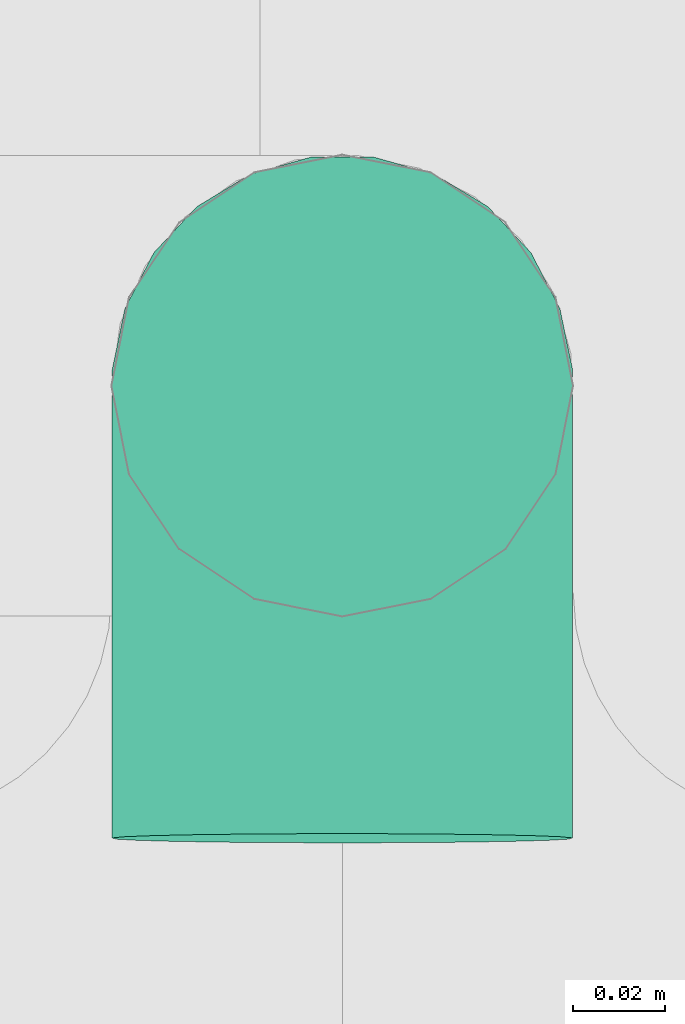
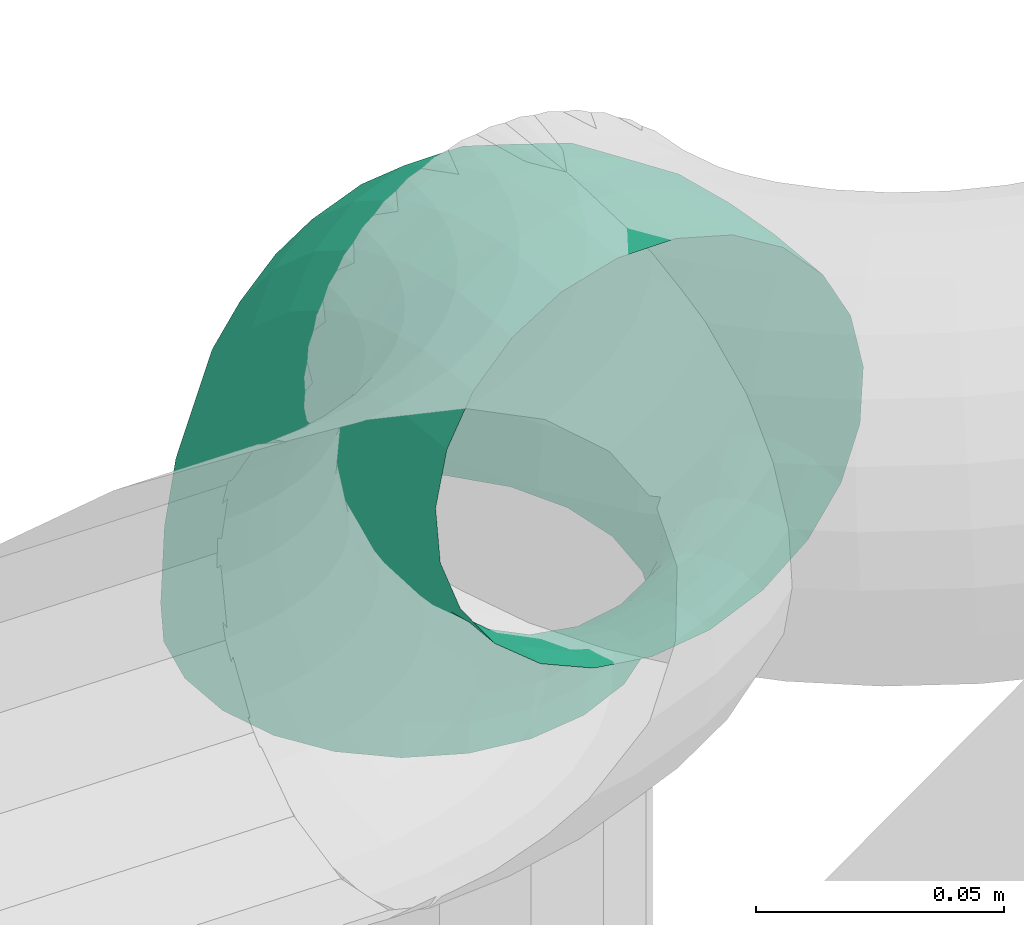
# One storey, part 80 of 108: 1 flow fitting.
"""IFC2X3 building model written with IfcOpenShell, lengths in metres."""

from ifc_helpers import new_model, entity, si_unit, converted_unit, derived_unit, money_unit, direction, frame, origin_with_axes, place, context, subcontext, project, spatial, open_shell, surface_model, material, type_object, element, save


model = new_model("IFC2X3")

# Units and contexts
model_context = context("Model", 3, precision=1e-05, world=origin_with_axes(), true_north=direction((0.0, 1.0)))
body_context = subcontext(model_context, "Body", "Model", "MODEL_VIEW", scale=1.0)
ifc_project = project(units=[si_unit("LENGTHUNIT", "METRE"), si_unit("AREAUNIT", "SQUARE_METRE"), si_unit("VOLUMEUNIT", "CUBIC_METRE"), si_unit("ABSORBEDDOSEUNIT", "GRAY"), si_unit("AMOUNTOFSUBSTANCEUNIT", "MOLE"), si_unit("DOSEEQUIVALENTUNIT", "SIEVERT"), si_unit("ELECTRICCAPACITANCEUNIT", "FARAD"), si_unit("ELECTRICCHARGEUNIT", "COULOMB"), si_unit("ELECTRICCONDUCTANCEUNIT", "SIEMENS"), si_unit("ELECTRICCURRENTUNIT", "AMPERE"), si_unit("ELECTRICRESISTANCEUNIT", "OHM"), si_unit("ELECTRICVOLTAGEUNIT", "VOLT"), si_unit("ENERGYUNIT", "JOULE"), si_unit("FORCEUNIT", "NEWTON"), si_unit("FREQUENCYUNIT", "HERTZ"), si_unit("ILLUMINANCEUNIT", "LUX"), si_unit("INDUCTANCEUNIT", "HENRY"), si_unit("LUMINOUSFLUXUNIT", "LUMEN"), si_unit("LUMINOUSINTENSITYUNIT", "CANDELA"), si_unit("MAGNETICFLUXDENSITYUNIT", "TESLA"), si_unit("MAGNETICFLUXUNIT", "WEBER"), si_unit("MASSUNIT", "GRAM"), converted_unit("PLANEANGLEUNIT", "degree", entity("IfcReal", 0.0174532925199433), si_unit("PLANEANGLEUNIT", "RADIAN"), dimensions=[0, 0, 0, 0, 0, 0, 0]), si_unit("POWERUNIT", "WATT"), si_unit("PRESSUREUNIT", "PASCAL"), si_unit("RADIOACTIVITYUNIT", "BECQUEREL"), si_unit("SOLIDANGLEUNIT", "STERADIAN"), si_unit("THERMODYNAMICTEMPERATUREUNIT", "KELVIN"), si_unit("TIMEUNIT", "SECOND"), derived_unit("ACCELERATIONUNIT", [(si_unit("LENGTHUNIT", "METRE"), 1), (si_unit("TIMEUNIT", "SECOND"), -2)]), derived_unit("ANGULARVELOCITYUNIT", [(converted_unit("PLANEANGLEUNIT", "degree", entity("IfcReal", 0.0174532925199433), si_unit("PLANEANGLEUNIT", "RADIAN"), dimensions=[0, 0, 0, 0, 0, 0, 0]), 1), (si_unit("TIMEUNIT", "SECOND"), -1)]), derived_unit("CURVATUREUNIT", [(converted_unit("PLANEANGLEUNIT", "degree", entity("IfcReal", 0.0174532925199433), si_unit("PLANEANGLEUNIT", "RADIAN"), dimensions=[0, 0, 0, 0, 0, 0, 0]), 1), (si_unit("LENGTHUNIT", "METRE"), -1)]), derived_unit("DYNAMICVISCOSITYUNIT", [(si_unit("PRESSUREUNIT", "PASCAL"), 1), (si_unit("TIMEUNIT", "SECOND"), 1)]), derived_unit("HEATFLUXDENSITYUNIT", [(si_unit("POWERUNIT", "WATT"), 1), (si_unit("LENGTHUNIT", "METRE"), -2)]), derived_unit("HEATINGVALUEUNIT", [(si_unit("ENERGYUNIT", "JOULE"), 1), (si_unit("MASSUNIT", "GRAM"), -1)]), derived_unit("INTEGERCOUNTRATEUNIT", [(si_unit("TIMEUNIT", "SECOND"), -1)]), derived_unit("IONCONCENTRATIONUNIT", [(si_unit("MASSUNIT", "GRAM"), 1), (si_unit("VOLUMEUNIT", "CUBIC_METRE"), -1)]), derived_unit("ISOTHERMALMOISTURECAPACITYUNIT", [(si_unit("VOLUMEUNIT", "CUBIC_METRE"), 1), (si_unit("MASSUNIT", "GRAM"), -1)]), derived_unit("KINEMATICVISCOSITYUNIT", [(si_unit("AREAUNIT", "SQUARE_METRE"), 1), (si_unit("TIMEUNIT", "SECOND"), -1)]), derived_unit("LINEARFORCEUNIT", [(si_unit("FORCEUNIT", "NEWTON"), 1), (si_unit("LENGTHUNIT", "METRE"), -1)]), derived_unit("LINEARMOMENTUNIT", [(si_unit("FORCEUNIT", "NEWTON"), 1), (si_unit("LENGTHUNIT", "METRE"), -1)]), derived_unit("LINEARSTIFFNESSUNIT", [(si_unit("FORCEUNIT", "NEWTON"), 1), (si_unit("LENGTHUNIT", "METRE"), -1)]), derived_unit("LINEARVELOCITYUNIT", [(si_unit("LENGTHUNIT", "METRE"), 1), (si_unit("TIMEUNIT", "SECOND"), -1)]), derived_unit("LUMINOUSINTENSITYDISTRIBUTIONUNIT", [(si_unit("LUMINOUSINTENSITYUNIT", "CANDELA"), 1), (si_unit("LUMINOUSFLUXUNIT", "LUMEN"), -1)]), derived_unit("MASSDENSITYUNIT", [(si_unit("MASSUNIT", "GRAM"), 1), (si_unit("VOLUMEUNIT", "CUBIC_METRE"), -1)]), derived_unit("MASSFLOWRATEUNIT", [(si_unit("MASSUNIT", "GRAM"), 1), (si_unit("TIMEUNIT", "SECOND"), -1)]), derived_unit("MASSPERLENGTHUNIT", [(si_unit("MASSUNIT", "GRAM"), 1), (si_unit("LENGTHUNIT", "METRE"), -1)]), derived_unit("MODULUSOFELASTICITYUNIT", [(si_unit("FORCEUNIT", "NEWTON"), 1), (si_unit("AREAUNIT", "SQUARE_METRE"), -1)]), derived_unit("MODULUSOFLINEARSUBGRADEREACTIONUNIT", [(si_unit("FORCEUNIT", "NEWTON"), 1), (si_unit("LENGTHUNIT", "METRE"), -2)]), derived_unit("MODULUSOFROTATIONALSUBGRADEREACTIONUNIT", [(si_unit("FORCEUNIT", "NEWTON"), 1), (si_unit("LENGTHUNIT", "METRE"), 1)]), derived_unit("MODULUSOFSUBGRADEREACTIONUNIT", [(si_unit("FORCEUNIT", "NEWTON"), 1), (si_unit("VOLUMEUNIT", "CUBIC_METRE"), -1)]), derived_unit("MOISTUREDIFFUSIVITYUNIT", [(si_unit("VOLUMEUNIT", "CUBIC_METRE"), 1), (si_unit("TIMEUNIT", "SECOND"), -1)]), derived_unit("MOLECULARWEIGHTUNIT", [(si_unit("MASSUNIT", "GRAM"), 1), (si_unit("AMOUNTOFSUBSTANCEUNIT", "MOLE"), -1)]), derived_unit("PLANARFORCEUNIT", [(si_unit("FORCEUNIT", "NEWTON"), 1), (si_unit("LENGTHUNIT", "METRE"), -2)]), derived_unit("ROTATIONALFREQUENCYUNIT", [(si_unit("TIMEUNIT", "SECOND"), -1)]), derived_unit("ROTATIONALMASSUNIT", [(si_unit("MASSUNIT", "GRAM"), 1), (si_unit("LENGTHUNIT", "METRE"), 2)]), derived_unit("ROTATIONALSTIFFNESSUNIT", [(si_unit("FORCEUNIT", "NEWTON"), 1), (si_unit("LENGTHUNIT", "METRE"), 1), (converted_unit("PLANEANGLEUNIT", "degree", entity("IfcReal", 0.0174532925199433), si_unit("PLANEANGLEUNIT", "RADIAN"), dimensions=[0, 0, 0, 0, 0, 0, 0]), -1)]), derived_unit("SECTIONAREAINTEGRALUNIT", [(si_unit("LENGTHUNIT", "METRE"), 5)]), derived_unit("SECTIONMODULUSUNIT", [(si_unit("LENGTHUNIT", "METRE"), 3)]), derived_unit("SHEARMODULUSUNIT", [(si_unit("FORCEUNIT", "NEWTON"), 1), (si_unit("AREAUNIT", "SQUARE_METRE"), -1)]), derived_unit("SOUNDPOWERUNIT", [(si_unit("ENERGYUNIT", "JOULE"), 1), (si_unit("TIMEUNIT", "SECOND"), -1)]), derived_unit("SPECIFICHEATCAPACITYUNIT", [(si_unit("FORCEUNIT", "NEWTON"), 1), (si_unit("MASSUNIT", "GRAM"), -1), (si_unit("THERMODYNAMICTEMPERATUREUNIT", "KELVIN"), -1)]), derived_unit("TEMPERATUREGRADIENTUNIT", [(si_unit("THERMODYNAMICTEMPERATUREUNIT", "KELVIN"), 1), (si_unit("LENGTHUNIT", "METRE"), -1)]), derived_unit("THERMALADMITTANCEUNIT", [(si_unit("POWERUNIT", "WATT"), 1), (si_unit("AREAUNIT", "SQUARE_METRE"), -1), (si_unit("THERMODYNAMICTEMPERATUREUNIT", "KELVIN"), -1)]), derived_unit("THERMALCONDUCTANCEUNIT", [(si_unit("POWERUNIT", "WATT"), 1), (si_unit("LENGTHUNIT", "METRE"), -1), (si_unit("THERMODYNAMICTEMPERATUREUNIT", "KELVIN"), -1)]), derived_unit("THERMALEXPANSIONCOEFFICIENTUNIT", [(si_unit("THERMODYNAMICTEMPERATUREUNIT", "KELVIN"), -1)]), derived_unit("THERMALRESISTANCEUNIT", [(si_unit("AREAUNIT", "SQUARE_METRE"), 1), (si_unit("POWERUNIT", "WATT"), -1)]), derived_unit("THERMALTRANSMITTANCEUNIT", [(si_unit("POWERUNIT", "WATT"), 1), (si_unit("AREAUNIT", "SQUARE_METRE"), -1), (si_unit("THERMODYNAMICTEMPERATUREUNIT", "KELVIN"), -1)]), derived_unit("TORQUEUNIT", [(si_unit("FORCEUNIT", "NEWTON"), 1), (si_unit("LENGTHUNIT", "METRE"), 1)]), derived_unit("VAPORPERMEABILITYUNIT", [(si_unit("MASSUNIT", "GRAM"), 1), (si_unit("TIMEUNIT", "SECOND"), -1)]), derived_unit("VOLUMETRICFLOWRATEUNIT", [(si_unit("VOLUMEUNIT", "CUBIC_METRE"), 1), (si_unit("TIMEUNIT", "SECOND"), -1)]), derived_unit("WARPINGCONSTANTUNIT", [(si_unit("LENGTHUNIT", "METRE"), 6)]), derived_unit("WARPINGMOMENTUNIT", [(si_unit("FORCEUNIT", "NEWTON"), 1), (si_unit("LENGTHUNIT", "METRE"), 2)]), money_unit("GBP")], contexts=[model_context])

# Site, building, storey
site_placement = place(None, origin_with_axes())
site = spatial("IfcSite", under=ifc_project, at=site_placement, Name="Site", CompositionType="ELEMENT")
building_placement = place(site_placement, origin_with_axes())
building = spatial("IfcBuilding", under=site, at=building_placement, Name="Building01", CompositionType="ELEMENT")
storey_placement = place(building_placement, origin_with_axes())
storey = spatial("IfcBuildingStorey", under=building, at=storey_placement, Name="GF", CompositionType="ELEMENT", Elevation=0.0)

# Flow fitting
ifc_material = material(Name="M_BSUK_ColdWater")
pipe_fitting_type = type_object("IfcPipeFittingType", Name="M-BmpElbow-DefaultElbow", PredefinedType="BEND")
flow_fitting_placement = place(storey_placement, frame((0.408496, 14.95, 15.378989), z_axis=(0.0, 1.0, 0.0), x_axis=(0.0, 0.0, -1.0)))
element("IfcFlowFitting", 1, at=flow_fitting_placement, inside=storey, type_object=pipe_fitting_type, material=ifc_material, Name="M-BmpElbow-DefaultElbow", ObjectType="M-BmpElbow-DefaultElbow", context=body_context, shape_type="SurfaceModel", body=[
    surface_model("IfcShellBasedSurfaceModel", [(-0.008009, -0.01349, -0.048768), (0.0, -0.01349, -0.048146), (0.0, 0.0, -0.05), (-0.007723, 0.0, -0.0506), (-0.015826, -0.01349, -0.05062), (-0.015261, 0.0, -0.052386), (-0.023264, -0.01349, -0.053657), (-0.022432, 0.0, -0.055314), (-0.030143, -0.01349, -0.057807), (-0.029065, 0.0, -0.059315), (-0.036298, -0.01349, -0.062969), (-0.035, 0.0, -0.064293), (-0.041582, -0.01349, -0.06902), (-0.040095, 0.0, -0.070127), (-0.045868, -0.01349, -0.075814), (-0.044228, 0.0, -0.076679), (-0.049054, -0.01349, -0.083189), (-0.0473, 0.0, -0.08379), (-0.051061, -0.01349, -0.090968), (-0.049236, 0.0, -0.091291), (-0.051844, -0.01349, -0.098963), (-0.04999, 0.0, -0.099), (-0.008847, -0.025979, -0.043408), (0.0, -0.025979, -0.042721), (-0.017482, -0.025979, -0.045454), (-0.025697, -0.025979, -0.048809), (-0.033296, -0.025979, -0.053392), (-0.040095, -0.025979, -0.059095), (-0.045932, -0.025979, -0.065779), (-0.050667, -0.025979, -0.073284), (-0.054185, -0.025979, -0.081431), (-0.056403, -0.025979, -0.090023), (-0.057268, -0.025979, -0.098855), (-0.010175, -0.036542, -0.034918), (0.0, -0.036542, -0.034128), (-0.020105, -0.036542, -0.037271), (-0.029553, -0.036542, -0.041129), (-0.038291, -0.036542, -0.0464), (-0.046111, -0.036542, -0.052958), (-0.052823, -0.036542, -0.060645), (-0.058268, -0.036542, -0.069276), (-0.062315, -0.036542, -0.078645), (-0.064865, -0.036542, -0.088526), (-0.065859, -0.036542, -0.098683), (-0.011893, -0.044394, -0.023927), (0.0, -0.044394, -0.023003), (-0.0235, -0.044394, -0.026677), (-0.034544, -0.044394, -0.031187), (-0.044758, -0.044394, -0.037348), (-0.053898, -0.044394, -0.045013), (-0.061744, -0.044394, -0.053998), (-0.068109, -0.044394, -0.064087), (-0.072838, -0.044394, -0.075038), (-0.07582, -0.044394, -0.086588), (-0.076981, -0.044394, -0.09846), (-0.013875, -0.048954, -0.011251), (0.0, -0.048954, -0.010173), (-0.027416, -0.048954, -0.014459), (-0.0403, -0.048954, -0.01972), (-0.052216, -0.048954, -0.026908), (-0.062879, -0.048954, -0.035851), (-0.072033, -0.048954, -0.046333), (-0.079458, -0.048954, -0.058103), (-0.084976, -0.048954, -0.070879), (-0.088454, -0.048954, -0.084353), (-0.089809, -0.048954, -0.098204), (-0.015973, -0.049883, 0.002171), (0.0, -0.049883, 0.003412), (-0.031562, -0.049883, -0.001522), (-0.046394, -0.049883, -0.007579), (-0.060113, -0.049883, -0.015854), (-0.072389, -0.049883, -0.026149), (-0.082927, -0.049883, -0.038216), (-0.091475, -0.049883, -0.051767), (-0.097827, -0.049883, -0.066475), (-0.101831, -0.049883, -0.081987), (-0.103391, -0.049883, -0.097932), (-0.018032, -0.047113, 0.015343), (0.0, -0.047113, 0.016744), (-0.035632, -0.047113, 0.011174), (-0.052376, -0.047113, 0.004336), (-0.067863, -0.047113, -0.005006), (-0.081721, -0.047113, -0.016628), (-0.093618, -0.047113, -0.030251), (-0.103268, -0.047113, -0.045548), (-0.110439, -0.047113, -0.062153), (-0.114959, -0.047113, -0.079665), (-0.116721, -0.047113, -0.097665), (-0.0199, -0.040848, 0.027288), (0.0, -0.040848, 0.028834), (-0.039322, -0.040848, 0.022687), (-0.0578, -0.040848, 0.015141), (-0.074891, -0.040848, 0.004831), (-0.090184, -0.040848, -0.007994), (-0.103313, -0.040848, -0.023028), (-0.113962, -0.040848, -0.039909), (-0.121876, -0.040848, -0.058233), (-0.126865, -0.040848, -0.077559), (-0.128808, -0.040848, -0.097424), (-0.021437, -0.031554, 0.03712), (0.0, -0.031554, 0.038786), (-0.042359, -0.031554, 0.032163), (-0.062264, -0.031554, 0.024035), (-0.080675, -0.031554, 0.012929), (-0.09715, -0.031554, -0.000887), (-0.111293, -0.031554, -0.017083), (-0.122765, -0.031554, -0.035268), (-0.13129, -0.031554, -0.055007), (-0.136664, -0.031554, -0.075826), (-0.138758, -0.031554, -0.097225), (-0.022529, -0.01992, 0.04411), (0.0, -0.01992, 0.045861), (-0.044518, -0.01992, 0.038901), (-0.065438, -0.01992, 0.030358), (-0.084788, -0.01992, 0.018686), (-0.102103, -0.01992, 0.004165), (-0.116966, -0.01992, -0.012856), (-0.129023, -0.01992, -0.031968), (-0.137983, -0.01992, -0.052713), (-0.143631, -0.01992, -0.074593), (-0.145831, -0.01992, -0.097083), (-0.023097, -0.006808, 0.04774), (0.0, -0.006808, 0.049534), (-0.045639, -0.006808, 0.042399), (-0.067087, -0.006808, 0.033641), (-0.086924, -0.006808, 0.021675), (-0.104674, -0.006808, 0.006789), (-0.119912, -0.006808, -0.010661), (-0.132273, -0.006808, -0.030254), (-0.141458, -0.006808, -0.051522), (-0.147248, -0.006808, -0.073953), (-0.149504, -0.006808, -0.09701), (-0.023097, 0.006808, 0.04774), (0.0, 0.006808, 0.049534), (-0.045639, 0.006808, 0.042399), (-0.067087, 0.006808, 0.033641), (-0.086924, 0.006808, 0.021675), (-0.104674, 0.006808, 0.006789), (-0.119912, 0.006808, -0.010661), (-0.132273, 0.006808, -0.030254), (-0.141458, 0.006808, -0.051522), (-0.147248, 0.006808, -0.073953), (-0.149504, 0.006808, -0.09701), (-0.022529, 0.01992, 0.04411), (0.0, 0.01992, 0.045861), (-0.044518, 0.01992, 0.038901), (-0.065438, 0.01992, 0.030358), (-0.084788, 0.01992, 0.018686), (-0.102103, 0.01992, 0.004165), (-0.116966, 0.01992, -0.012856), (-0.129023, 0.01992, -0.031968), (-0.137983, 0.01992, -0.052713), (-0.143631, 0.01992, -0.074593), (-0.145831, 0.01992, -0.097083), (-0.021437, 0.031554, 0.03712), (0.0, 0.031554, 0.038786), (-0.042359, 0.031554, 0.032163), (-0.062264, 0.031554, 0.024035), (-0.080675, 0.031554, 0.012929), (-0.09715, 0.031554, -0.000887), (-0.111293, 0.031554, -0.017083), (-0.122765, 0.031554, -0.035268), (-0.13129, 0.031554, -0.055007), (-0.136664, 0.031554, -0.075826), (-0.138758, 0.031554, -0.097225), (-0.0199, 0.040848, 0.027288), (0.0, 0.040848, 0.028834), (-0.039322, 0.040848, 0.022687), (-0.0578, 0.040848, 0.015141), (-0.074891, 0.040848, 0.004831), (-0.090184, 0.040848, -0.007994), (-0.103313, 0.040848, -0.023028), (-0.113962, 0.040848, -0.039909), (-0.121876, 0.040848, -0.058233), (-0.126865, 0.040848, -0.077559), (-0.128808, 0.040848, -0.097424), (-0.018032, 0.047113, 0.015343), (0.0, 0.047113, 0.016744), (-0.035632, 0.047113, 0.011174), (-0.052376, 0.047113, 0.004336), (-0.067863, 0.047113, -0.005006), (-0.081721, 0.047113, -0.016628), (-0.093618, 0.047113, -0.030251), (-0.103268, 0.047113, -0.045548), (-0.110439, 0.047113, -0.062153), (-0.114959, 0.047113, -0.079665), (-0.116721, 0.047113, -0.097665), (-0.015973, 0.049883, 0.002171), (0.0, 0.049883, 0.003412), (-0.031562, 0.049883, -0.001522), (-0.046394, 0.049883, -0.007579), (-0.060113, 0.049883, -0.015854), (-0.072389, 0.049883, -0.026149), (-0.082927, 0.049883, -0.038216), (-0.091475, 0.049883, -0.051767), (-0.097827, 0.049883, -0.066475), (-0.101831, 0.049883, -0.081987), (-0.103391, 0.049883, -0.097932), (-0.013875, 0.048954, -0.011251), (0.0, 0.048954, -0.010173), (-0.027416, 0.048954, -0.014459), (-0.0403, 0.048954, -0.01972), (-0.052216, 0.048954, -0.026908), (-0.062879, 0.048954, -0.035851), (-0.072033, 0.048954, -0.046333), (-0.079458, 0.048954, -0.058103), (-0.084976, 0.048954, -0.070879), (-0.088454, 0.048954, -0.084353), (-0.089809, 0.048954, -0.098204), (-0.011893, 0.044394, -0.023927), (0.0, 0.044394, -0.023003), (-0.0235, 0.044394, -0.026677), (-0.034544, 0.044394, -0.031187), (-0.044758, 0.044394, -0.037348), (-0.053898, 0.044394, -0.045013), (-0.061744, 0.044394, -0.053998), (-0.068109, 0.044394, -0.064087), (-0.072838, 0.044394, -0.075038), (-0.07582, 0.044394, -0.086588), (-0.076981, 0.044394, -0.09846), (-0.010175, 0.036542, -0.034918), (0.0, 0.036542, -0.034128), (-0.020105, 0.036542, -0.037271), (-0.029553, 0.036542, -0.041129), (-0.038291, 0.036542, -0.0464), (-0.046111, 0.036542, -0.052958), (-0.052823, 0.036542, -0.060645), (-0.058268, 0.036542, -0.069276), (-0.062315, 0.036542, -0.078645), (-0.064865, 0.036542, -0.088526), (-0.065859, 0.036542, -0.098683), (-0.008847, 0.025979, -0.043408), (0.0, 0.025979, -0.042721), (-0.017482, 0.025979, -0.045454), (-0.025697, 0.025979, -0.048809), (-0.033296, 0.025979, -0.053392), (-0.040095, 0.025979, -0.059095), (-0.045932, 0.025979, -0.065779), (-0.050667, 0.025979, -0.073284), (-0.054185, 0.025979, -0.081431), (-0.056403, 0.025979, -0.090023), (-0.057268, 0.025979, -0.098855), (-0.008009, 0.01349, -0.048768), (0.0, 0.01349, -0.048146), (-0.015826, 0.01349, -0.05062), (-0.023264, 0.01349, -0.053657), (-0.030143, 0.01349, -0.057807), (-0.036298, 0.01349, -0.062969), (-0.041582, 0.01349, -0.06902), (-0.045868, 0.01349, -0.075814), (-0.049054, 0.01349, -0.083189), (-0.051061, 0.01349, -0.090968), (-0.051844, 0.01349, -0.098963)], [open_shell([[[0, 1, 2, 3]], [[4, 0, 3, 5]], [[6, 4, 5, 7]], [[8, 6, 7, 9]], [[10, 8, 9, 11]], [[12, 10, 11, 13]], [[14, 12, 13, 15]], [[16, 14, 15, 17]], [[18, 16, 17, 19]], [[20, 18, 19, 21]], [[22, 23, 1, 0]], [[24, 22, 0, 4]], [[25, 24, 4, 6]], [[26, 25, 6, 8]], [[27, 26, 8, 10]], [[28, 27, 10, 12]], [[29, 28, 12, 14]], [[30, 29, 14, 16]], [[31, 30, 16, 18]], [[32, 31, 18, 20]], [[33, 34, 23, 22]], [[35, 33, 22, 24]], [[36, 35, 24, 25]], [[37, 36, 25, 26]], [[38, 37, 26, 27]], [[39, 38, 27, 28]], [[40, 39, 28, 29]], [[41, 40, 29, 30]], [[42, 41, 30, 31]], [[43, 42, 31, 32]], [[44, 45, 34, 33]], [[46, 44, 33, 35]], [[47, 46, 35, 36]], [[48, 47, 36, 37]], [[49, 48, 37, 38]], [[50, 49, 38, 39]], [[51, 50, 39, 40]], [[52, 51, 40, 41]], [[53, 52, 41, 42]], [[54, 53, 42, 43]], [[55, 56, 45, 44]], [[57, 55, 44, 46]], [[58, 57, 46, 47]], [[59, 58, 47, 48]], [[60, 59, 48, 49]], [[61, 60, 49, 50]], [[62, 61, 50, 51]], [[63, 62, 51, 52]], [[64, 63, 52, 53]], [[65, 64, 53, 54]], [[66, 67, 56, 55]], [[68, 66, 55, 57]], [[69, 68, 57, 58]], [[70, 69, 58, 59]], [[71, 70, 59, 60]], [[72, 71, 60, 61]], [[73, 72, 61, 62]], [[74, 73, 62, 63]], [[75, 74, 63, 64]], [[76, 75, 64, 65]], [[77, 78, 67, 66]], [[79, 77, 66, 68]], [[80, 79, 68, 69]], [[81, 80, 69, 70]], [[82, 81, 70, 71]], [[83, 82, 71, 72]], [[84, 83, 72, 73]], [[85, 84, 73, 74]], [[86, 85, 74, 75]], [[87, 86, 75, 76]], [[88, 89, 78, 77]], [[90, 88, 77, 79]], [[91, 90, 79, 80]], [[92, 91, 80, 81]], [[93, 92, 81, 82]], [[94, 93, 82, 83]], [[95, 94, 83, 84]], [[96, 95, 84, 85]], [[97, 96, 85, 86]], [[98, 97, 86, 87]], [[99, 100, 89, 88]], [[101, 99, 88, 90]], [[102, 101, 90, 91]], [[103, 102, 91, 92]], [[104, 103, 92, 93]], [[105, 104, 93, 94]], [[106, 105, 94, 95]], [[107, 106, 95, 96]], [[108, 107, 96, 97]], [[109, 108, 97, 98]], [[110, 111, 100, 99]], [[112, 110, 99, 101]], [[113, 112, 101, 102]], [[114, 113, 102, 103]], [[115, 114, 103, 104]], [[116, 115, 104, 105]], [[117, 116, 105, 106]], [[118, 117, 106, 107]], [[119, 118, 107, 108]], [[120, 119, 108, 109]], [[121, 122, 111, 110]], [[123, 121, 110, 112]], [[124, 123, 112, 113]], [[125, 124, 113, 114]], [[126, 125, 114, 115]], [[127, 126, 115, 116]], [[128, 127, 116, 117]], [[129, 128, 117, 118]], [[130, 129, 118, 119]], [[131, 130, 119, 120]], [[132, 133, 122, 121]], [[134, 132, 121, 123]], [[135, 134, 123, 124]], [[136, 135, 124, 125]], [[137, 136, 125, 126]], [[138, 137, 126, 127]], [[139, 138, 127, 128]], [[140, 139, 128, 129]], [[141, 140, 129, 130]], [[142, 141, 130, 131]], [[143, 144, 133, 132]], [[145, 143, 132, 134]], [[146, 145, 134, 135]], [[147, 146, 135, 136]], [[148, 147, 136, 137]], [[149, 148, 137, 138]], [[150, 149, 138, 139]], [[151, 150, 139, 140]], [[152, 151, 140, 141]], [[153, 152, 141, 142]], [[154, 155, 144, 143]], [[156, 154, 143, 145]], [[157, 156, 145, 146]], [[158, 157, 146, 147]], [[159, 158, 147, 148]], [[160, 159, 148, 149]], [[161, 160, 149, 150]], [[162, 161, 150, 151]], [[163, 162, 151, 152]], [[164, 163, 152, 153]], [[165, 166, 155, 154]], [[167, 165, 154, 156]], [[168, 167, 156, 157]], [[169, 168, 157, 158]], [[170, 169, 158, 159]], [[171, 170, 159, 160]], [[172, 171, 160, 161]], [[173, 172, 161, 162]], [[174, 173, 162, 163]], [[175, 174, 163, 164]], [[176, 177, 166, 165]], [[178, 176, 165, 167]], [[179, 178, 167, 168]], [[180, 179, 168, 169]], [[181, 180, 169, 170]], [[182, 181, 170, 171]], [[183, 182, 171, 172]], [[184, 183, 172, 173]], [[185, 184, 173, 174]], [[186, 185, 174, 175]], [[187, 188, 177, 176]], [[189, 187, 176, 178]], [[190, 189, 178, 179]], [[191, 190, 179, 180]], [[192, 191, 180, 181]], [[193, 192, 181, 182]], [[194, 193, 182, 183]], [[195, 194, 183, 184]], [[196, 195, 184, 185]], [[197, 196, 185, 186]], [[198, 199, 188, 187]], [[200, 198, 187, 189]], [[201, 200, 189, 190]], [[202, 201, 190, 191]], [[203, 202, 191, 192]], [[204, 203, 192, 193]], [[205, 204, 193, 194]], [[206, 205, 194, 195]], [[207, 206, 195, 196]], [[208, 207, 196, 197]], [[209, 210, 199, 198]], [[211, 209, 198, 200]], [[212, 211, 200, 201]], [[213, 212, 201, 202]], [[214, 213, 202, 203]], [[215, 214, 203, 204]], [[216, 215, 204, 205]], [[217, 216, 205, 206]], [[218, 217, 206, 207]], [[219, 218, 207, 208]], [[220, 221, 210, 209]], [[222, 220, 209, 211]], [[223, 222, 211, 212]], [[224, 223, 212, 213]], [[225, 224, 213, 214]], [[226, 225, 214, 215]], [[227, 226, 215, 216]], [[228, 227, 216, 217]], [[229, 228, 217, 218]], [[230, 229, 218, 219]], [[231, 232, 221, 220]], [[233, 231, 220, 222]], [[234, 233, 222, 223]], [[235, 234, 223, 224]], [[236, 235, 224, 225]], [[237, 236, 225, 226]], [[238, 237, 226, 227]], [[239, 238, 227, 228]], [[240, 239, 228, 229]], [[241, 240, 229, 230]], [[242, 243, 232, 231]], [[244, 242, 231, 233]], [[245, 244, 233, 234]], [[246, 245, 234, 235]], [[247, 246, 235, 236]], [[248, 247, 236, 237]], [[249, 248, 237, 238]], [[250, 249, 238, 239]], [[251, 250, 239, 240]], [[252, 251, 240, 241]], [[3, 2, 243, 242]], [[5, 3, 242, 244]], [[7, 5, 244, 245]], [[9, 7, 245, 246]], [[11, 9, 246, 247]], [[13, 11, 247, 248]], [[15, 13, 248, 249]], [[17, 15, 249, 250]], [[19, 17, 250, 251]], [[21, 19, 251, 252]]])]),
])

save(model, "model.ifc")
